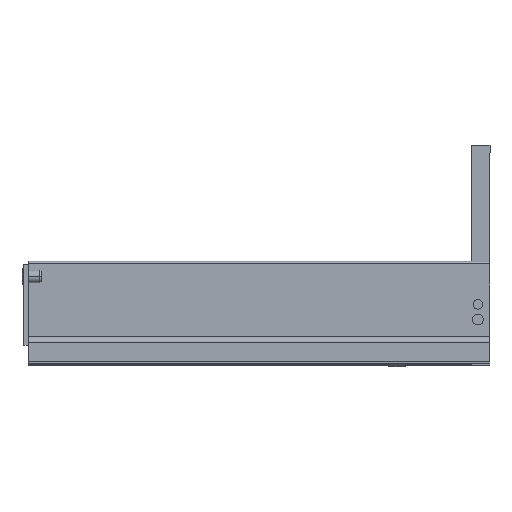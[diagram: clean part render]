
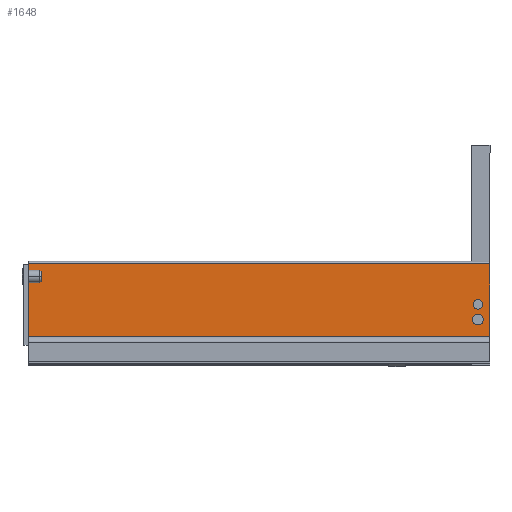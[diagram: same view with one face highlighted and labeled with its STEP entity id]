
A CAD part, left-side view. The second image highlights one B-rep face of the part: STEP entity #1648.
In plain terms, the highlighted planar face has unit normal (-1, 0, 0).
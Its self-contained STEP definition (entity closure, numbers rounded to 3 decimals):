
#17 = CIRCLE ( 'NONE', #1200, 4.6 ) ;
#102 = VERTEX_POINT ( 'NONE', #257 ) ;
#110 = VERTEX_POINT ( 'NONE', #246 ) ;
#111 = VERTEX_POINT ( 'NONE', #247 ) ;
#169 = DIRECTION ( 'NONE',  ( 0., 0., -1. ) ) ;
#170 = CARTESIAN_POINT ( 'NONE',  ( -21.5, 397., 5.395 ) ) ;
#246 = CARTESIAN_POINT ( 'NONE',  ( -21.5, 10.4, 15.4 ) ) ;
#247 = CARTESIAN_POINT ( 'NONE',  ( -21.5, 10.4, 24.6 ) ) ;
#257 = CARTESIAN_POINT ( 'NONE',  ( -21.5, 10.4, 37.1 ) ) ;
#392 = DIRECTION ( 'NONE',  ( 1., 0., 0. ) ) ;
#393 = DIRECTION ( 'NONE',  ( 0., 0., -1. ) ) ;
#400 = CARTESIAN_POINT ( 'NONE',  ( -21.5, 10.4, 20. ) ) ;
#557 = DIRECTION ( 'NONE',  ( 0., -1., 0. ) ) ;
#558 = CARTESIAN_POINT ( 'NONE',  ( -21.5, 397., 5.395 ) ) ;
#609 = DIRECTION ( 'NONE',  ( 0., -1., 0. ) ) ;
#614 = CARTESIAN_POINT ( 'NONE',  ( -21.5, 397., 68. ) ) ;
#664 = DIRECTION ( 'NONE',  ( 1., 0., 0. ) ) ;
#678 = CARTESIAN_POINT ( 'NONE',  ( -21.5, 10.4, 20. ) ) ;
#681 = DIRECTION ( 'NONE',  ( 0., 0., -1. ) ) ;
#686 = DIRECTION ( 'NONE',  ( 0., 0., -1. ) ) ;
#689 = CARTESIAN_POINT ( 'NONE',  ( -21.5, 0., 68. ) ) ;
#791 = DIRECTION ( 'NONE',  ( 1., 0., 0. ) ) ;
#792 = DIRECTION ( 'NONE',  ( 0., 0., -1. ) ) ;
#815 = CARTESIAN_POINT ( 'NONE',  ( -21.5, 10.4, 33. ) ) ;
#824 = DIRECTION ( 'NONE',  ( 1., 0., 0. ) ) ;
#825 = DIRECTION ( 'NONE',  ( 0., 0., -1. ) ) ;
#853 = CARTESIAN_POINT ( 'NONE',  ( -21.5, 10.4, 33. ) ) ;
#1046 = LINE ( 'NONE', #558, #1047 ) ;
#1047 = VECTOR ( 'NONE', #557, 1000. ) ;
#1079 = EDGE_CURVE ( 'NONE', #1991, #1988, #1692, .T. ) ;
#1097 = AXIS2_PLACEMENT_3D ( 'NONE', #853, #824, #825 ) ;
#1098 = AXIS2_PLACEMENT_3D ( 'NONE', #815, #791, #792 ) ;
#1123 = AXIS2_PLACEMENT_3D ( 'NONE', #2407, #2302, #2326 ) ;
#1140 = EDGE_CURVE ( 'NONE', #111, #110, #1348, .T. ) ;
#1200 = AXIS2_PLACEMENT_3D ( 'NONE', #678, #664, #681 ) ;
#1204 = AXIS2_PLACEMENT_3D ( 'NONE', #400, #392, #393 ) ;
#1237 = EDGE_CURVE ( 'NONE', #1991, #2019, #2223, .T. ) ;
#1263 = EDGE_CURVE ( 'NONE', #1988, #2021, #1046, .T. ) ;
#1336 = EDGE_CURVE ( 'NONE', #110, #111, #17, .T. ) ;
#1348 = CIRCLE ( 'NONE', #1204, 4.6 ) ;
#1402 = EDGE_CURVE ( 'NONE', #2019, #2021, #1895, .T. ) ;
#1499 = EDGE_CURVE ( 'NONE', #102, #2026, #1936, .T. ) ;
#1526 = EDGE_CURVE ( 'NONE', #2026, #102, #1967, .T. ) ;
#1648 = ADVANCED_FACE ( 'NONE', ( #2110, #2120, #2105 ), #2406, .T. ) ;
#1692 = LINE ( 'NONE', #170, #1697 ) ;
#1697 = VECTOR ( 'NONE', #169, 1000. ) ;
#1895 = LINE ( 'NONE', #689, #1910 ) ;
#1910 = VECTOR ( 'NONE', #686, 1000. ) ;
#1936 = CIRCLE ( 'NONE', #1097, 4.1 ) ;
#1967 = CIRCLE ( 'NONE', #1098, 4.1 ) ;
#1988 = VERTEX_POINT ( 'NONE', #2447 ) ;
#1991 = VERTEX_POINT ( 'NONE', #2379 ) ;
#2019 = VERTEX_POINT ( 'NONE', #2529 ) ;
#2021 = VERTEX_POINT ( 'NONE', #2538 ) ;
#2026 = VERTEX_POINT ( 'NONE', #2459 ) ;
#2105 = FACE_BOUND ( 'NONE', #2969, .T. ) ;
#2110 = FACE_OUTER_BOUND ( 'NONE', #2962, .T. ) ;
#2120 = FACE_BOUND ( 'NONE', #2970, .T. ) ;
#2222 = VECTOR ( 'NONE', #609, 1000. ) ;
#2223 = LINE ( 'NONE', #614, #2222 ) ;
#2302 = DIRECTION ( 'NONE',  ( -1., 0., 0. ) ) ;
#2326 = DIRECTION ( 'NONE',  ( 0., 0., -1. ) ) ;
#2379 = CARTESIAN_POINT ( 'NONE',  ( -21.5, 397., 68. ) ) ;
#2406 = PLANE ( 'NONE',  #1123 ) ;
#2407 = CARTESIAN_POINT ( 'NONE',  ( -21.5, 397., 68. ) ) ;
#2447 = CARTESIAN_POINT ( 'NONE',  ( -21.5, 397., 5.395 ) ) ;
#2459 = CARTESIAN_POINT ( 'NONE',  ( -21.5, 10.4, 28.9 ) ) ;
#2529 = CARTESIAN_POINT ( 'NONE',  ( -21.5, 0., 68. ) ) ;
#2538 = CARTESIAN_POINT ( 'NONE',  ( -21.5, 0., 5.395 ) ) ;
#2608 = ORIENTED_EDGE ( 'NONE', *, *, #1237, .F. ) ;
#2609 = ORIENTED_EDGE ( 'NONE', *, *, #1079, .T. ) ;
#2610 = ORIENTED_EDGE ( 'NONE', *, *, #1263, .T. ) ;
#2611 = ORIENTED_EDGE ( 'NONE', *, *, #1402, .F. ) ;
#2612 = ORIENTED_EDGE ( 'NONE', *, *, #1526, .T. ) ;
#2613 = ORIENTED_EDGE ( 'NONE', *, *, #1499, .T. ) ;
#2614 = ORIENTED_EDGE ( 'NONE', *, *, #1336, .T. ) ;
#2615 = ORIENTED_EDGE ( 'NONE', *, *, #1140, .T. ) ;
#2962 = EDGE_LOOP ( 'NONE', ( #2608, #2609, #2610, #2611 ) ) ;
#2969 = EDGE_LOOP ( 'NONE', ( #2614, #2615 ) ) ;
#2970 = EDGE_LOOP ( 'NONE', ( #2612, #2613 ) ) ;
